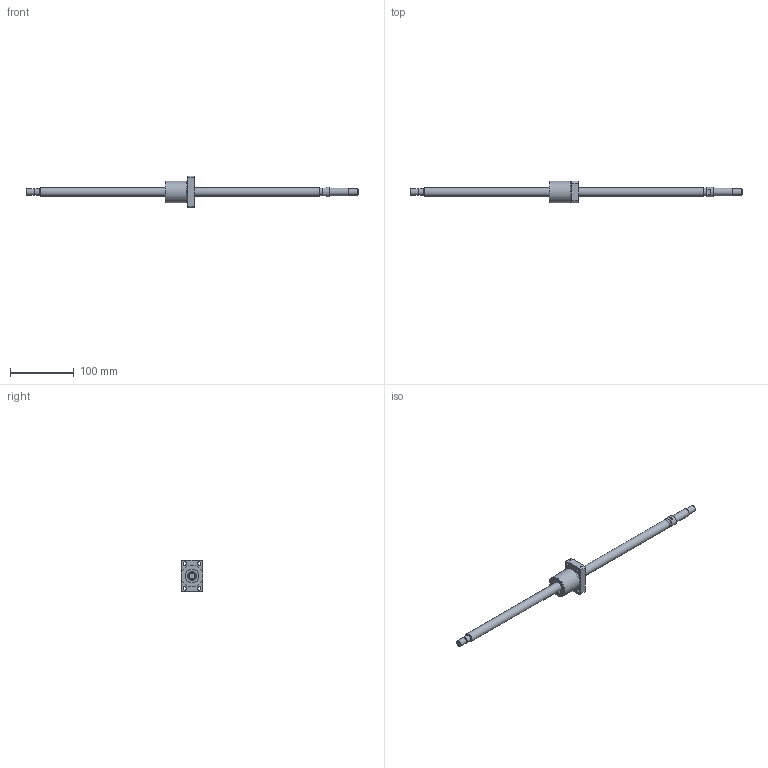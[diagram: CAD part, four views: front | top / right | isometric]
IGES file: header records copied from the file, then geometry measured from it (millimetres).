
Start section: Data from Parasolid IGES Translator 26.0.171, Copyright(c) 2006 Siemens PLM Software. All Rights Reserved.
Global section: file name: BNK1408-2.5RRG0+521LC5Y(242.50).igs; native system: By Siemens PLM Incorporated; preprocessor: XPlus GENERIC/IGES 26.0.171; author: Noname; organization: Noname; date: 20240709.091728; units: millimetre
Bounding box: 521 x 34 x 50 mm (x, y, z)
Surface area: 34561.1 mm2 (no closed solid volume)
Topology: 0 solids, 0 shells, 74 faces, 325 edges, 282 vertices
Faces by surface type: revolution 46, extrusion 28
